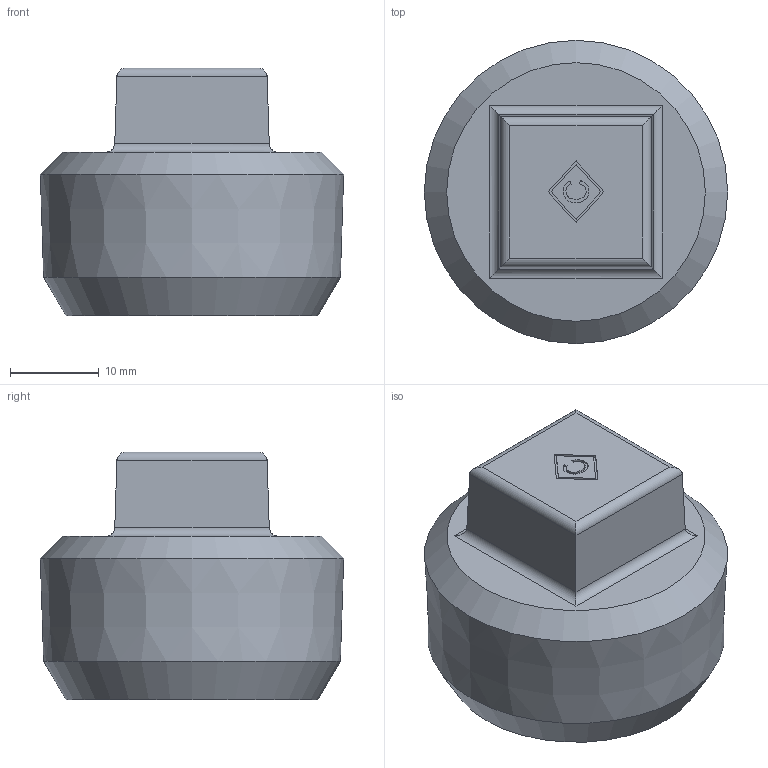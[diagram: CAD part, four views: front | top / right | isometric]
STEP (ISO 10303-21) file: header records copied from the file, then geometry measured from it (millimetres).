
FILE_DESCRIPTION((''),'2;1');
FILE_NAME('P:\Fastrack\53909_CRANE\Crane\Fig.148 Plain Plug Solid\New 1.00 inch\148-1.00.stp','2009-09-15T10:13:24',('btaylor'),(''),'Autodesk Inventor 2008','Autodesk Inventor 2008','');
FILE_SCHEMA(('AUTOMOTIVE_DESIGN { 1 0 10303 214 1 1 1 1 }'));
Length unit declared in the file: millimetre
Products named in the file (1): 148-1.00
Bounding box: 34.24 x 34.24 x 28 mm (x, y, z)
Volume: 18568.8 mm3; surface area: 3975.9 mm2
Topology: 1 solids, 1 shells, 39 faces, 89 edges, 56 vertices
Faces by surface type: plane 20, bspline 8, cylinder 8, cone 3
Entity records: 1213 total; most frequent: CARTESIAN_POINT 354, ORIENTED_EDGE 172, DIRECTION 146, EDGE_CURVE 86, VECTOR 58, LINE 58, VERTEX_POINT 56, EDGE_LOOP 46
